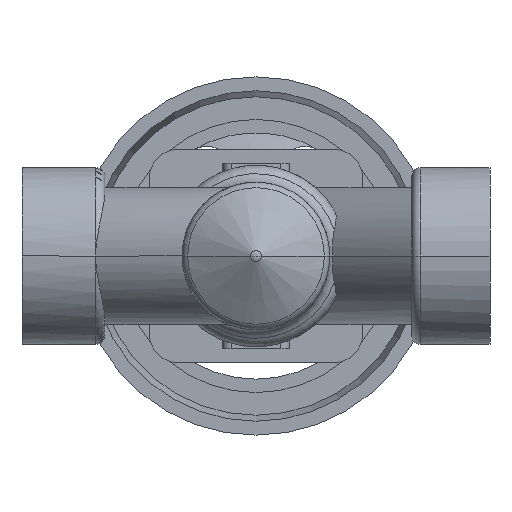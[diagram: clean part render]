
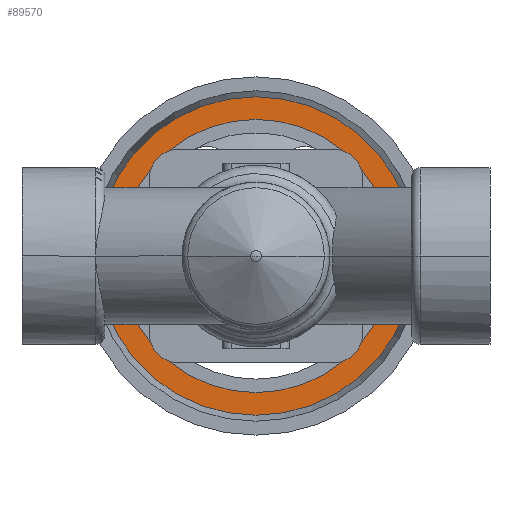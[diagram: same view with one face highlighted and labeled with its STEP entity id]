
A CAD part, front view. The second image highlights one B-rep face of the part: STEP entity #89570.
In plain terms, the highlighted planar face has unit normal (0, -1, 0).
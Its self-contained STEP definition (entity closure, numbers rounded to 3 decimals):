
#89020=CARTESIAN_POINT('',(175.609,289.4,0.)
);
#89030=VERTEX_POINT('',#89020);
#89060=CARTESIAN_POINT('',(104.5,289.4,0.));
#89070=DIRECTION('',(0.,1.,0.));
#89080=DIRECTION('',(-1.,0.,0.));
#89090=AXIS2_PLACEMENT_3D('',#89060,#89070,#89080);
#89100=CIRCLE('',#89090,71.109);
#89110=CARTESIAN_POINT('',(33.391,289.4,0.));
#89120=VERTEX_POINT('',#89110);
#89130=EDGE_CURVE('',#89120,#89030,#89100,.T.);
#89320=CARTESIAN_POINT('',(38.446,289.4,0.))
;
#89330=DIRECTION('',(0.,-1.,0.));
#89340=DIRECTION('',(1.,0.,0.));
#89350=AXIS2_PLACEMENT_3D('',#89320,#89330,#89340);
#89360=PLANE('',#89350);
#89370=ORIENTED_EDGE('',*,*,#89130,.F.);
#89380=EDGE_CURVE('',#89030,#89120,#89100,.T.);
#89390=ORIENTED_EDGE('',*,*,#89380,.F.);
#89400=EDGE_LOOP('',(#89390,#89370));
#89410=FACE_OUTER_BOUND('',#89400,.T.);
#89420=CARTESIAN_POINT('',(104.5,289.4,0.));
#89430=DIRECTION('',(0.,1.,0.));
#89440=DIRECTION('',(-1.,0.,0.));
#89450=AXIS2_PLACEMENT_3D('',#89420,#89430,#89440);
#89460=CIRCLE('',#89450,61.);
#89470=CARTESIAN_POINT('',(43.5,289.4,0.));
#89480=VERTEX_POINT('',#89470);
#89490=CARTESIAN_POINT('',(165.5,289.4,0.));
#89500=VERTEX_POINT('',#89490);
#89510=EDGE_CURVE('',#89480,#89500,#89460,.T.);
#89520=ORIENTED_EDGE('',*,*,#89510,.T.);
#89530=EDGE_CURVE('',#89500,#89480,#89460,.T.);
#89540=ORIENTED_EDGE('',*,*,#89530,.T.);
#89550=EDGE_LOOP('',(#89540,#89520));
#89560=FACE_BOUND('',#89550,.T.);
#89570=ADVANCED_FACE('',(#89410,#89560),#89360,.T.);
